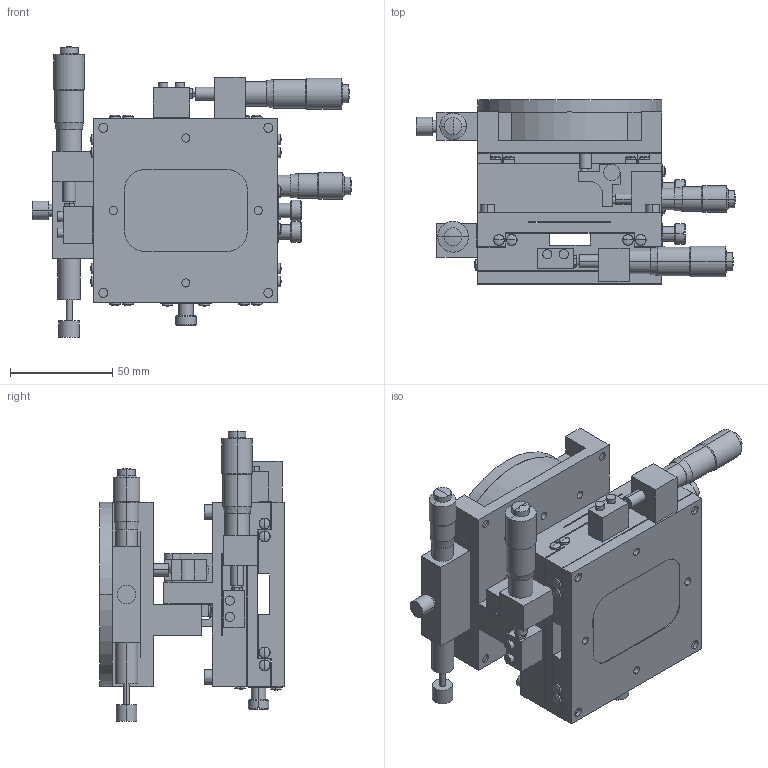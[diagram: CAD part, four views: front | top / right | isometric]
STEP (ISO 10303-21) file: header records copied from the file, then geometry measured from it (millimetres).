
FILE_DESCRIPTION (( 'STEP AP203' ), '1' );
FILE_NAME ('TR-907-S1.STEP', '2016-08-01T07:17:22', ( '' ), ( '' ), 'SwSTEP 2.0', 'SolidWorks 2011', '' );
FILE_SCHEMA (( 'CONFIG_CONTROL_DESIGN' ));
Length unit declared in the file: millimetre
Products named in the file (8): TR-907-S1; TR-907-S1-7_a; TR-907-S1-6_a; TR-907-S1-5_a; TR-907-S1-4_a; TR-907-S1-3_a; TR-907-S1-2_a; TR-907-S1-1_a
Assembly tree (7 placements, depth 2):
  TR-907-S1
    TR-907-S1-2_a
    TR-907-S1-6_a
    TR-907-S1-3_a
    TR-907-S1-1_a
    TR-907-S1-7_a
    TR-907-S1-4_a
    TR-907-S1-5_a
Bounding box: 156 x 90 x 141.96 mm (x, y, z)
Volume: 546640.3 mm3; surface area: 177336.4 mm2
Topology: 9 solids, 24 shells, 868 faces, 2010 edges, 1279 vertices
Faces by surface type: plane 344, cylinder 342, cone 118, sphere 58, bspline 6
Entity records: 26949 total; most frequent: CARTESIAN_POINT 5497, DIRECTION 4605, ORIENTED_EDGE 3976, EDGE_CURVE 1988, AXIS2_PLACEMENT_3D 1775, VERTEX_POINT 1279, EDGE_LOOP 1087, VECTOR 1055
